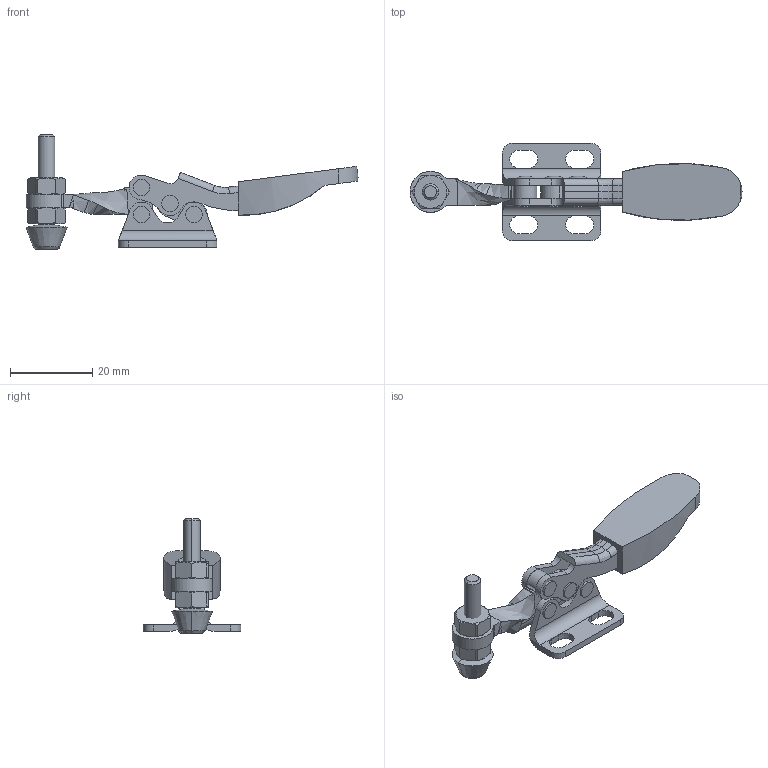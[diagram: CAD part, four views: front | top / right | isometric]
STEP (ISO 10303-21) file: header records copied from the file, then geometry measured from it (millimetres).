
FILE_DESCRIPTION(('CATIA V5 STEP Exchange'),'2;1');
FILE_NAME('D:\Model\toggle\toggle_standard\KJF_003_25F.stp','2005-06-24T02:44:48+00:00',('none'),('none'),'CATIA Version 5 Release 11 (IN-9)','CATIA V5 STEP AP203',' none');
FILE_SCHEMA(('CONFIG_CONTROL_DESIGN'));
Length unit declared in the file: millimetre
Products named in the file (1): Part1
Bounding box: 80.84 x 23.8 x 28 mm (x, y, z)
Volume: 6271.6 mm3; surface area: 6791.6 mm2
Topology: 14 solids, 14 shells, 290 faces, 742 edges, 482 vertices
Faces by surface type: cylinder 117, plane 109, cone 38, bspline 26
Entity records: 9857 total; most frequent: CARTESIAN_POINT 3396, ORIENTED_EDGE 1468, DIRECTION 984, EDGE_CURVE 734, VERTEX_POINT 482, AXIS2_PLACEMENT_3D 469, EDGE_LOOP 342, VECTOR 320
